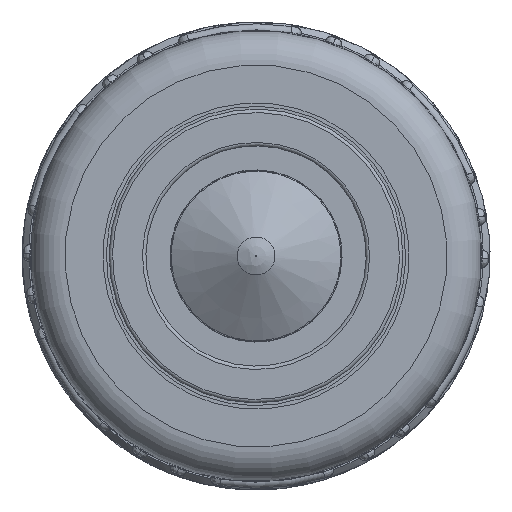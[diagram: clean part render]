
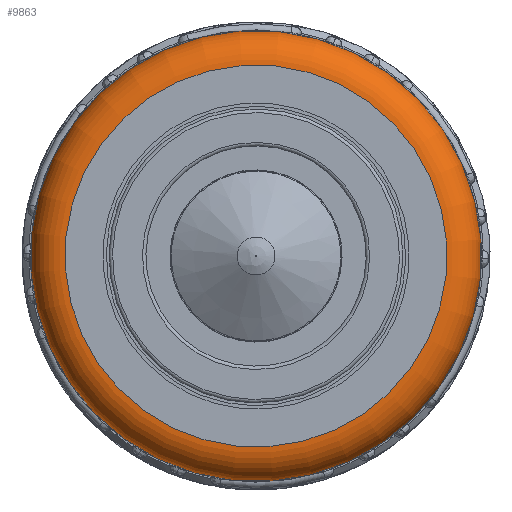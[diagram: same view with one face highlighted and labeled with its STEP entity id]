
A CAD part, front view. The second image highlights one B-rep face of the part: STEP entity #9863.
In plain terms, the highlighted toroidal (fillet/blend) face has major radius 27.75 mm and minor radius 5 mm.
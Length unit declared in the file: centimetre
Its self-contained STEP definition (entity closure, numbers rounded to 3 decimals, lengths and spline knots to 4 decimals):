
#1162=TOROIDAL_SURFACE('',#10756,2.775,0.5);
#1870=FACE_BOUND('',#3086,.T.);
#2431=FACE_OUTER_BOUND('',#3085,.T.);
#3085=EDGE_LOOP('',(#8427));
#3086=EDGE_LOOP('',(#8428));
#3579=CIRCLE('',#10754,2.775);
#3581=CIRCLE('',#10757,3.275);
#4472=VERTEX_POINT('',#61965);
#4474=VERTEX_POINT('',#61970);
#5826=EDGE_CURVE('',#4472,#4472,#3579,.T.);
#5828=EDGE_CURVE('',#4474,#4474,#3581,.T.);
#8427=ORIENTED_EDGE('',*,*,#5828,.F.);
#8428=ORIENTED_EDGE('',*,*,#5826,.T.);
#9863=ADVANCED_FACE('',(#2431,#1870),#1162,.T.);
#10754=AXIS2_PLACEMENT_3D('',#61966,#13063,#13064);
#10756=AXIS2_PLACEMENT_3D('',#61969,#13067,#13068);
#10757=AXIS2_PLACEMENT_3D('',#61971,#13069,#13070);
#13063=DIRECTION('center_axis',(0.,1.,0.));
#13064=DIRECTION('ref_axis',(-0.827,0.,-0.562));
#13067=DIRECTION('center_axis',(0.,1.,0.));
#13068=DIRECTION('ref_axis',(0.562,0.,-0.827));
#13069=DIRECTION('center_axis',(0.,1.,0.));
#13070=DIRECTION('ref_axis',(-0.827,0.,-0.562));
#61965=CARTESIAN_POINT('',(2.2953,-4.0551,1.5595));
#61966=CARTESIAN_POINT('Origin',(0.,-4.0551,
0.));
#61969=CARTESIAN_POINT('Origin',(0.,-3.5551,
0.));
#61970=CARTESIAN_POINT('',(2.7089,-3.5551,1.8405));
#61971=CARTESIAN_POINT('Origin',(0.,-3.5551,
0.));
